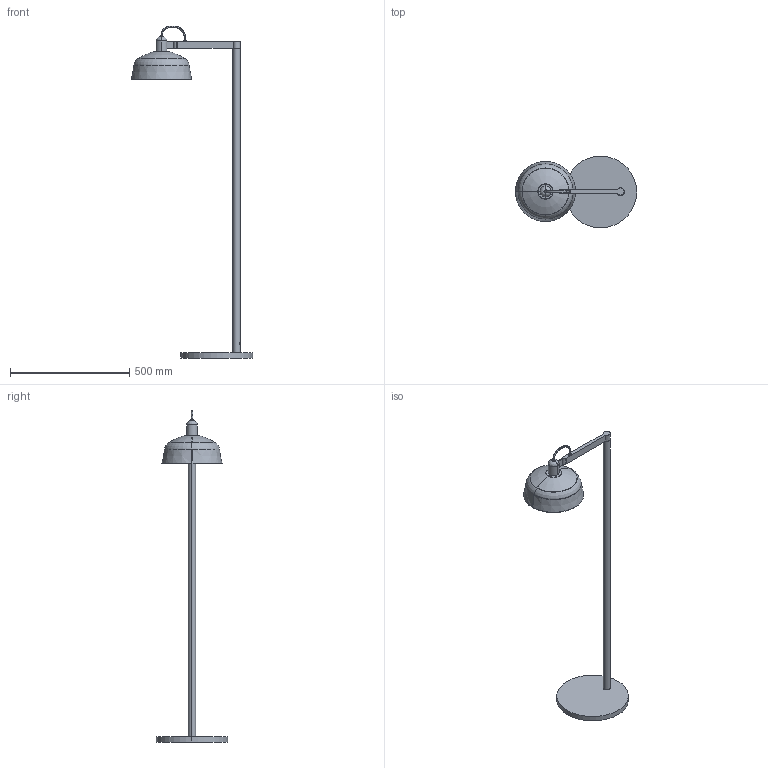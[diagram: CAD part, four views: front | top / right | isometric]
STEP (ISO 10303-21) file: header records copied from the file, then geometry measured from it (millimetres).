
FILE_DESCRIPTION(/* description */ (''),/* implementation_level */ '2;1');
FILE_NAME(/* name */ '20336-145.step',/* time_stamp */ '2024-10-21T13:00:04+02:00',/* author */ ('RenataManzini'),/* organization */ (''),/* preprocessor_version */ 'ST-DEVELOPER v20',/* originating_system */ 'AutoCAD Mechanical',/* authorisation */ '');
FILE_SCHEMA (('AUTOMOTIVE_DESIGN { 1 0 10303 214 3 1 1 }'));
Length unit declared in the file: millimetre
Products named in the file (1): Product
Bounding box: 507.07 x 300 x 1389.94 mm (x, y, z)
Volume: 3053724.3 mm3; surface area: 750737.1 mm2
Topology: 7 solids, 7 shells, 124 faces, 249 edges, 138 vertices
Faces by surface type: plane 48, cylinder 30, bspline 28, cone 10, torus 8
Entity records: 5716 total; most frequent: CARTESIAN_POINT 3288, DIRECTION 487, ORIENTED_EDGE 482, EDGE_CURVE 241, AXIS2_PLACEMENT_3D 197, VERTEX_POINT 132, EDGE_LOOP 125, FACE_OUTER_BOUND 124
